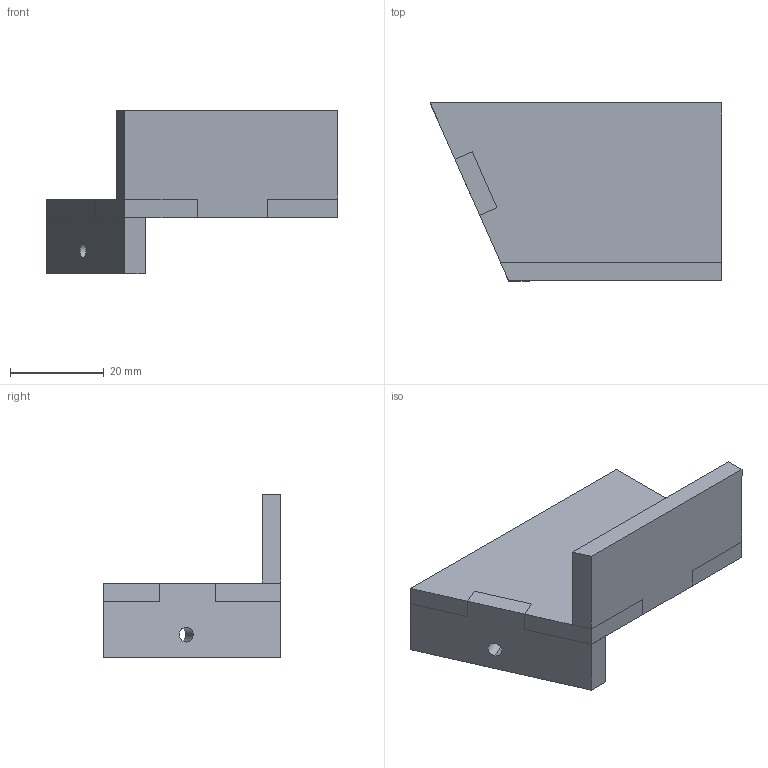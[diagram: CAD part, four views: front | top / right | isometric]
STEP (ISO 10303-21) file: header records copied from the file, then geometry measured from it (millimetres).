
FILE_DESCRIPTION(('STEP AP214'),'1');
FILE_NAME('C:/Bibel_diveBox_Anleitungen_Versionenspeicherung_tgl/Projekt_diveBOX/aktuell/Bauteile - final/tmp0.stp','2024-03-11T21:02:03',(' '),(' '),'Spatial InterOp 3D',' ',' ');
FILE_SCHEMA(('automotive_design'));
Length unit declared in the file: millimetre
Products named in the file (3): 1; 2; 3
Bounding box: 62.25 x 38 x 35 mm (x, y, z)
Volume: 13675.2 mm3; surface area: 8722.2 mm2
Topology: 3 solids, 3 shells, 36 faces, 90 edges, 60 vertices
Faces by surface type: plane 34, cylinder 2
Entity records: 1420 total; most frequent: CARTESIAN_POINT 189, ORIENTED_EDGE 180, DIRECTION 172, EDGE_CURVE 90, LINE 86, VECTOR 86, VERTEX_POINT 60, AXIS2_PLACEMENT_3D 43
